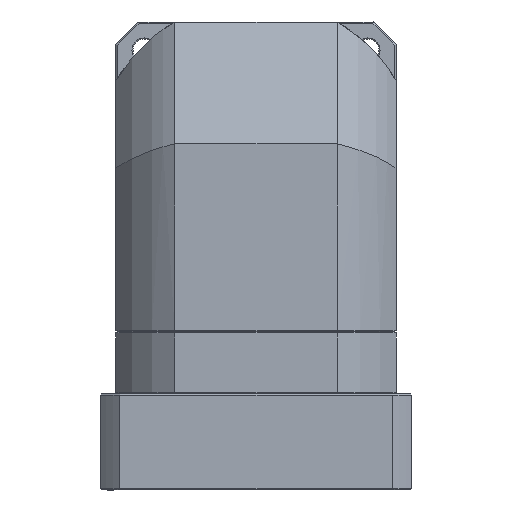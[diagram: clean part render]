
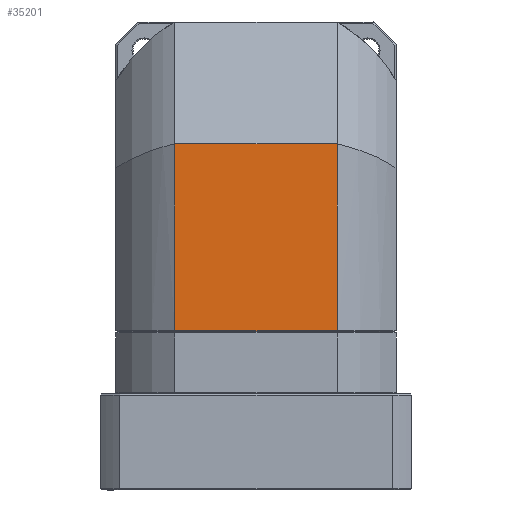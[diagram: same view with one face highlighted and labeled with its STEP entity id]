
A CAD part, front view. The second image highlights one B-rep face of the part: STEP entity #35201.
In plain terms, the highlighted planar face has unit normal (0, 1, 0).
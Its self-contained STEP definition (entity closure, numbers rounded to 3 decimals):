
#1739 = PLANE ( 'NONE',  #61845 ) ;
#1904 = CARTESIAN_POINT ( 'NONE',  ( -33.407, -216.611, 7.5 ) ) ;
#2038 = DIRECTION ( 'NONE',  ( 0., -1., 0. ) ) ;
#4174 = VERTEX_POINT ( 'NONE', #75631 ) ;
#5403 = LINE ( 'NONE', #12560, #60691 ) ;
#10663 = VECTOR ( 'NONE', #58318, 1000. ) ;
#12560 = CARTESIAN_POINT ( 'NONE',  ( 33.407, -216.611, -30.85 ) ) ;
#16819 = CARTESIAN_POINT ( 'NONE',  ( -33.407, -216.611, -30.62 ) ) ;
#17004 = EDGE_CURVE ( 'NONE', #36857, #87548, #24678, .T. ) ;
#24641 = FACE_OUTER_BOUND ( 'NONE', #82422, .T. ) ;
#24678 = LINE ( 'NONE', #82632, #40978 ) ;
#26147 = LINE ( 'NONE', #85266, #83590 ) ;
#29080 = LINE ( 'NONE', #16819, #10663 ) ;
#34277 = DIRECTION ( 'NONE',  ( 1., 0., 0. ) ) ;
#35201 = ADVANCED_FACE ( 'NONE', ( #24641 ), #1739, .F. ) ;
#36249 = EDGE_CURVE ( 'NONE', #44405, #36857, #29080, .T. ) ;
#36857 = VERTEX_POINT ( 'NONE', #1904 ) ;
#40978 = VECTOR ( 'NONE', #34277, 1000. ) ;
#41045 = ORIENTED_EDGE ( 'NONE', *, *, #84055, .F. ) ;
#41792 = CARTESIAN_POINT ( 'NONE',  ( -33.407, -216.611, -69.2 ) ) ;
#43631 = CARTESIAN_POINT ( 'NONE',  ( -33.407, -216.611, -69.2 ) ) ;
#43928 = DIRECTION ( 'NONE',  ( 1., 0., 0. ) ) ;
#44405 = VERTEX_POINT ( 'NONE', #41792 ) ;
#47126 = DIRECTION ( 'NONE',  ( 0., 0., 1. ) ) ;
#49484 = ORIENTED_EDGE ( 'NONE', *, *, #17004, .T. ) ;
#50415 = ORIENTED_EDGE ( 'NONE', *, *, #80199, .F. ) ;
#50578 = DIRECTION ( 'NONE',  ( 1., 0., 0. ) ) ;
#58318 = DIRECTION ( 'NONE',  ( 0., 0., 1. ) ) ;
#60691 = VECTOR ( 'NONE', #47126, 1000. ) ;
#61845 = AXIS2_PLACEMENT_3D ( 'NONE', #43631, #2038, #50578 ) ;
#75631 = CARTESIAN_POINT ( 'NONE',  ( 33.407, -216.611, -69.2 ) ) ;
#76929 = ORIENTED_EDGE ( 'NONE', *, *, #36249, .T. ) ;
#80199 = EDGE_CURVE ( 'NONE', #44405, #4174, #26147, .T. ) ;
#82422 = EDGE_LOOP ( 'NONE', ( #41045, #50415, #76929, #49484 ) ) ;
#82632 = CARTESIAN_POINT ( 'NONE',  ( 0., -216.611, 7.5 ) ) ;
#83590 = VECTOR ( 'NONE', #43928, 1000. ) ;
#84055 = EDGE_CURVE ( 'NONE', #4174, #87548, #5403, .T. ) ;
#85266 = CARTESIAN_POINT ( 'NONE',  ( 0., -216.611, -69.2 ) ) ;
#86903 = CARTESIAN_POINT ( 'NONE',  ( 33.407, -216.611, 7.5 ) ) ;
#87548 = VERTEX_POINT ( 'NONE', #86903 ) ;
